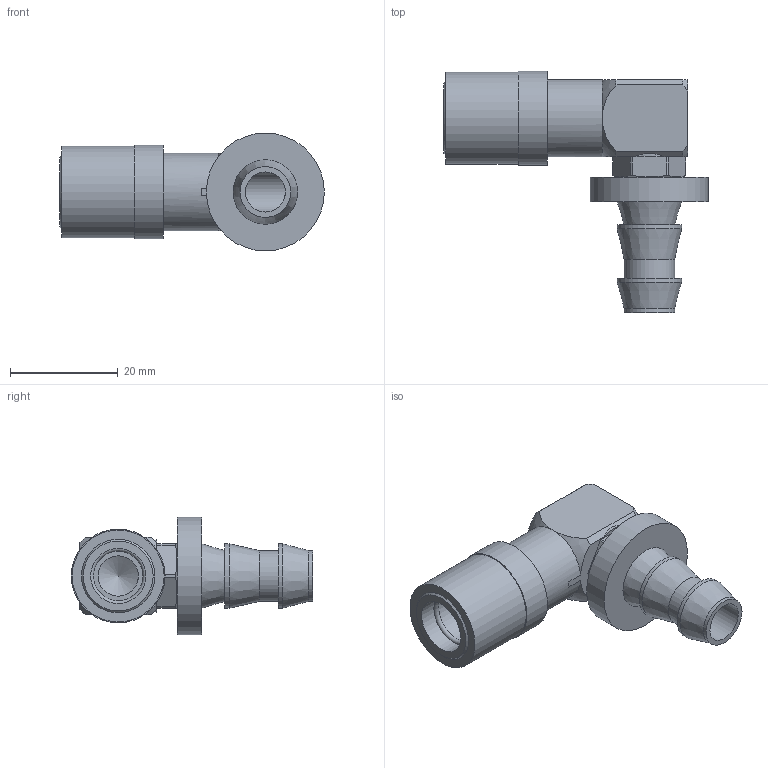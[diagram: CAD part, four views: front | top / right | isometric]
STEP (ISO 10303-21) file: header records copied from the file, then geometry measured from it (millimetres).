
FILE_DESCRIPTION(/* description */ ('STEP AP214'),/* implementation_level */ '2;1');
FILE_NAME(/* name */ 'JSL0216-SV',/* time_stamp */ '2024-12-19T09:18:07+01:00',/* author */ ('License CC BY-ND 4.0'),/* organization */ ('CADENAS'),/* preprocessor_version */ 'ST-DEVELOPER v19.3',/* originating_system */ 'PARTsolutions',/* authorisation */ ' ');
FILE_SCHEMA (('AUTOMOTIVE_DESIGN {1 0 10303 214 3 1 1}'));
Length unit declared in the file: inch
Products named in the file (1): JSL0216-SV
Bounding box: 49.03 x 44.71 x 21.84 mm (x, y, z)
Volume: 9425.8 mm3; surface area: 6478.7 mm2
Topology: 1 solids, 1 shells, 71 faces, 171 edges, 111 vertices
Faces by surface type: plane 34, cylinder 22, sphere 8, cone 6, torus 1
Full cylindrical faces by diameter (mm): 7.417 x1, 7.468 x1, 9.398 x3, 10.211 x2, 11.938 x2, 14.3 x1, 17.018 x1, 17.358 x1, 21.844 x1
Entity records: 2036 total; most frequent: CARTESIAN_POINT 384, DIRECTION 361, ORIENTED_EDGE 294, AXIS2_PLACEMENT_3D 150, EDGE_CURVE 147, VERTEX_POINT 108, FACE_BOUND 103, EDGE_LOOP 102
